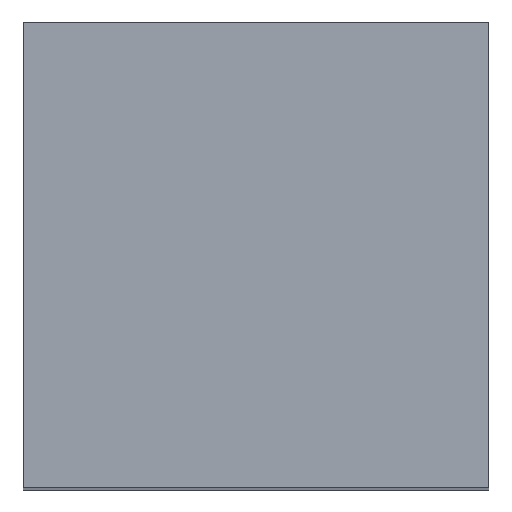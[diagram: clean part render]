
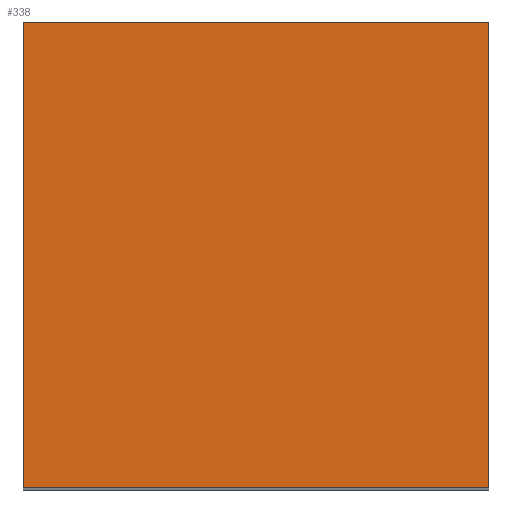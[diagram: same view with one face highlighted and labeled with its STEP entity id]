
A CAD part, top view. The second image highlights one B-rep face of the part: STEP entity #338.
In plain terms, the highlighted planar face has unit normal (0, 0, 1).
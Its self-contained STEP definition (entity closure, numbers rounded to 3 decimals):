
#24 = VERTEX_POINT('',#25);
#25 = CARTESIAN_POINT('',(-366.544,-154.369,140.));
#32 = PLANE('',#33);
#33 = AXIS2_PLACEMENT_3D('',#34,#35,#36);
#34 = CARTESIAN_POINT('',(-366.544,-154.369,58.));
#35 = DIRECTION('',(1.,0.,-0.));
#36 = DIRECTION('',(0.,0.,1.));
#44 = PLANE('',#45);
#45 = AXIS2_PLACEMENT_3D('',#46,#47,#48);
#46 = CARTESIAN_POINT('',(-366.544,-154.369,58.));
#47 = DIRECTION('',(-0.,1.,0.));
#48 = DIRECTION('',(0.,0.,1.));
#85 = VERTEX_POINT('',#86);
#86 = CARTESIAN_POINT('',(-366.544,-130.369,140.));
#100 = PLANE('',#101);
#101 = AXIS2_PLACEMENT_3D('',#102,#103,#104);
#102 = CARTESIAN_POINT('',(-366.544,-130.369,58.));
#103 = DIRECTION('',(-0.,1.,0.));
#104 = DIRECTION('',(0.,0.,1.));
#112 = EDGE_CURVE('',#24,#85,#113,.T.);
#113 = SURFACE_CURVE('',#114,(#118,#125),.PCURVE_S1.);
#114 = LINE('',#115,#116);
#115 = CARTESIAN_POINT('',(-366.544,-154.369,140.));
#116 = VECTOR('',#117,1.);
#117 = DIRECTION('',(-0.,1.,0.));
#118 = PCURVE('',#32,#119);
#119 = DEFINITIONAL_REPRESENTATION('',(#120),#124);
#120 = LINE('',#121,#122);
#121 = CARTESIAN_POINT('',(82.,0.));
#122 = VECTOR('',#123,1.);
#123 = DIRECTION('',(0.,-1.));
#124 = ( GEOMETRIC_REPRESENTATION_CONTEXT(2) 
PARAMETRIC_REPRESENTATION_CONTEXT() REPRESENTATION_CONTEXT('2D SPACE',''
  ) );
#125 = PCURVE('',#126,#131);
#126 = PLANE('',#127);
#127 = AXIS2_PLACEMENT_3D('',#128,#129,#130);
#128 = CARTESIAN_POINT('',(-366.544,-154.369,140.));
#129 = DIRECTION('',(0.,0.,1.));
#130 = DIRECTION('',(1.,0.,-0.));
#131 = DEFINITIONAL_REPRESENTATION('',(#132),#136);
#132 = LINE('',#133,#134);
#133 = CARTESIAN_POINT('',(0.,0.));
#134 = VECTOR('',#135,1.);
#135 = DIRECTION('',(0.,1.));
#136 = ( GEOMETRIC_REPRESENTATION_CONTEXT(2) 
PARAMETRIC_REPRESENTATION_CONTEXT() REPRESENTATION_CONTEXT('2D SPACE',''
  ) );
#144 = VERTEX_POINT('',#145);
#145 = CARTESIAN_POINT('',(-342.544,-154.369,140.));
#152 = PLANE('',#153);
#153 = AXIS2_PLACEMENT_3D('',#154,#155,#156);
#154 = CARTESIAN_POINT('',(-342.544,-154.369,58.));
#155 = DIRECTION('',(1.,0.,-0.));
#156 = DIRECTION('',(0.,0.,1.));
#195 = VERTEX_POINT('',#196);
#196 = CARTESIAN_POINT('',(-342.544,-130.369,140.));
#217 = EDGE_CURVE('',#144,#195,#218,.T.);
#218 = SURFACE_CURVE('',#219,(#223,#230),.PCURVE_S1.);
#219 = LINE('',#220,#221);
#220 = CARTESIAN_POINT('',(-342.544,-154.369,140.));
#221 = VECTOR('',#222,1.);
#222 = DIRECTION('',(-0.,1.,0.));
#223 = PCURVE('',#152,#224);
#224 = DEFINITIONAL_REPRESENTATION('',(#225),#229);
#225 = LINE('',#226,#227);
#226 = CARTESIAN_POINT('',(82.,0.));
#227 = VECTOR('',#228,1.);
#228 = DIRECTION('',(0.,-1.));
#229 = ( GEOMETRIC_REPRESENTATION_CONTEXT(2) 
PARAMETRIC_REPRESENTATION_CONTEXT() REPRESENTATION_CONTEXT('2D SPACE',''
  ) );
#230 = PCURVE('',#126,#231);
#231 = DEFINITIONAL_REPRESENTATION('',(#232),#236);
#232 = LINE('',#233,#234);
#233 = CARTESIAN_POINT('',(24.,0.));
#234 = VECTOR('',#235,1.);
#235 = DIRECTION('',(0.,1.));
#236 = ( GEOMETRIC_REPRESENTATION_CONTEXT(2) 
PARAMETRIC_REPRESENTATION_CONTEXT() REPRESENTATION_CONTEXT('2D SPACE',''
  ) );
#263 = EDGE_CURVE('',#24,#144,#264,.T.);
#264 = SURFACE_CURVE('',#265,(#269,#276),.PCURVE_S1.);
#265 = LINE('',#266,#267);
#266 = CARTESIAN_POINT('',(-366.544,-154.369,140.));
#267 = VECTOR('',#268,1.);
#268 = DIRECTION('',(1.,0.,-0.));
#269 = PCURVE('',#44,#270);
#270 = DEFINITIONAL_REPRESENTATION('',(#271),#275);
#271 = LINE('',#272,#273);
#272 = CARTESIAN_POINT('',(82.,0.));
#273 = VECTOR('',#274,1.);
#274 = DIRECTION('',(0.,1.));
#275 = ( GEOMETRIC_REPRESENTATION_CONTEXT(2) 
PARAMETRIC_REPRESENTATION_CONTEXT() REPRESENTATION_CONTEXT('2D SPACE',''
  ) );
#276 = PCURVE('',#126,#277);
#277 = DEFINITIONAL_REPRESENTATION('',(#278),#282);
#278 = LINE('',#279,#280);
#279 = CARTESIAN_POINT('',(0.,0.));
#280 = VECTOR('',#281,1.);
#281 = DIRECTION('',(1.,0.));
#282 = ( GEOMETRIC_REPRESENTATION_CONTEXT(2) 
PARAMETRIC_REPRESENTATION_CONTEXT() REPRESENTATION_CONTEXT('2D SPACE',''
  ) );
#310 = EDGE_CURVE('',#85,#195,#311,.T.);
#311 = SURFACE_CURVE('',#312,(#316,#323),.PCURVE_S1.);
#312 = LINE('',#313,#314);
#313 = CARTESIAN_POINT('',(-366.544,-130.369,140.));
#314 = VECTOR('',#315,1.);
#315 = DIRECTION('',(1.,0.,-0.));
#316 = PCURVE('',#100,#317);
#317 = DEFINITIONAL_REPRESENTATION('',(#318),#322);
#318 = LINE('',#319,#320);
#319 = CARTESIAN_POINT('',(82.,0.));
#320 = VECTOR('',#321,1.);
#321 = DIRECTION('',(0.,1.));
#322 = ( GEOMETRIC_REPRESENTATION_CONTEXT(2) 
PARAMETRIC_REPRESENTATION_CONTEXT() REPRESENTATION_CONTEXT('2D SPACE',''
  ) );
#323 = PCURVE('',#126,#324);
#324 = DEFINITIONAL_REPRESENTATION('',(#325),#329);
#325 = LINE('',#326,#327);
#326 = CARTESIAN_POINT('',(0.,24.));
#327 = VECTOR('',#328,1.);
#328 = DIRECTION('',(1.,0.));
#329 = ( GEOMETRIC_REPRESENTATION_CONTEXT(2) 
PARAMETRIC_REPRESENTATION_CONTEXT() REPRESENTATION_CONTEXT('2D SPACE',''
  ) );
#338 = ADVANCED_FACE('',(#339),#126,.T.);
#339 = FACE_BOUND('',#340,.T.);
#340 = EDGE_LOOP('',(#341,#342,#343,#344));
#341 = ORIENTED_EDGE('',*,*,#112,.F.);
#342 = ORIENTED_EDGE('',*,*,#263,.T.);
#343 = ORIENTED_EDGE('',*,*,#217,.T.);
#344 = ORIENTED_EDGE('',*,*,#310,.F.);
